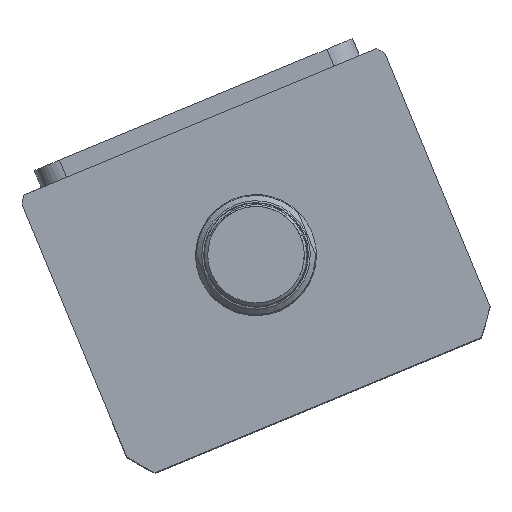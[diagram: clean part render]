
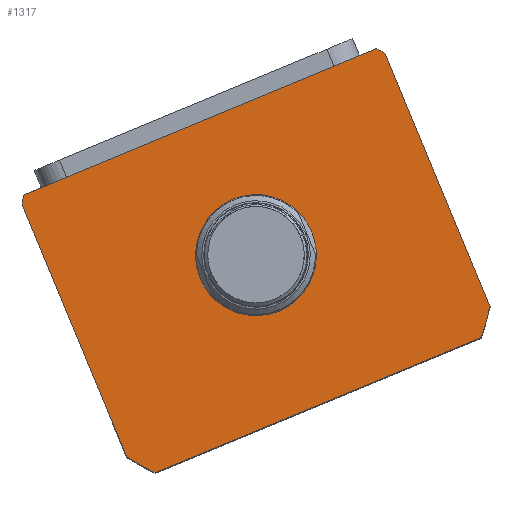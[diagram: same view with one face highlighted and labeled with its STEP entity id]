
A CAD part, top view. The second image highlights one B-rep face of the part: STEP entity #1317.
In plain terms, the highlighted planar face has unit normal (0, 0, 1) as drawn and (0, 0, -1) by its records, which use the part's own axes.
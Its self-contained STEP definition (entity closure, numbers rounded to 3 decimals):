
#159 = ORIENTED_EDGE ( 'NONE', *, *, #14225, .F. ) ;
#245 = CARTESIAN_POINT ( 'NONE',  ( 17.5, -59.497, 0. ) ) ;
#346 = ORIENTED_EDGE ( 'NONE', *, *, #11132, .F. ) ;
#671 = EDGE_CURVE ( 'NONE', #20606, #8132, #8462, .T. ) ;
#677 = VECTOR ( 'NONE', #12440, 1000. ) ;
#872 = CARTESIAN_POINT ( 'NONE',  ( -57., -106.497, 0. ) ) ;
#1020 = CARTESIAN_POINT ( 'NONE',  ( 57., -19.732, 0. ) ) ;
#1317 = ADVANCED_FACE ( 'NONE', ( #14549, #9455 ), #16532, .F. ) ;
#2123 = EDGE_CURVE ( 'NONE', #11955, #20454, #13290, .T. ) ;
#2366 = VERTEX_POINT ( 'NONE', #14005 ) ;
#2477 = EDGE_CURVE ( 'NONE', #11803, #19871, #16335, .T. ) ;
#3041 = EDGE_LOOP ( 'NONE', ( #19815, #21486 ) ) ;
#3910 = ORIENTED_EDGE ( 'NONE', *, *, #14729, .F. ) ;
#4805 = DIRECTION ( 'NONE',  ( 1., 0., 0. ) ) ;
#4864 = EDGE_CURVE ( 'NONE', #8226, #11803, #25386, .T. ) ;
#5328 = CARTESIAN_POINT ( 'NONE',  ( 0., -59.497, 0. ) ) ;
#5329 = DIRECTION ( 'NONE',  ( 0., 0., 1. ) ) ;
#5729 = DIRECTION ( 'NONE',  ( 0., 0., 1. ) ) ;
#5743 = EDGE_CURVE ( 'NONE', #18215, #8226, #14267, .T. ) ;
#6135 = ORIENTED_EDGE ( 'NONE', *, *, #2477, .F. ) ;
#6388 = LINE ( 'NONE', #10270, #677 ) ;
#6477 = CARTESIAN_POINT ( 'NONE',  ( -57., -99.262, 0. ) ) ;
#6952 = CARTESIAN_POINT ( 'NONE',  ( 57., -17.497, 0. ) ) ;
#7354 = ORIENTED_EDGE ( 'NONE', *, *, #5743, .F. ) ;
#7498 = DIRECTION ( 'NONE',  ( 1., 0., 0. ) ) ;
#8132 = VERTEX_POINT ( 'NONE', #245 ) ;
#8226 = VERTEX_POINT ( 'NONE', #17832 ) ;
#8337 = AXIS2_PLACEMENT_3D ( 'NONE', #18250, #5329, #20406 ) ;
#8462 = CIRCLE ( 'NONE', #25682, 17.5 ) ;
#8479 = ORIENTED_EDGE ( 'NONE', *, *, #4864, .F. ) ;
#9056 = AXIS2_PLACEMENT_3D ( 'NONE', #18658, #5729, #20810 ) ;
#9455 = FACE_OUTER_BOUND ( 'NONE', #27335, .T. ) ;
#9526 = CARTESIAN_POINT ( 'NONE',  ( 0., -59.497, 0. ) ) ;
#9567 = DIRECTION ( 'NONE',  ( 0., 0., 1. ) ) ;
#10013 = EDGE_CURVE ( 'NONE', #8132, #20606, #12513, .T. ) ;
#10081 = VERTEX_POINT ( 'NONE', #1020 ) ;
#10173 = AXIS2_PLACEMENT_3D ( 'NONE', #17171, #27017, #25379 ) ;
#10270 = CARTESIAN_POINT ( 'NONE',  ( -57., -17.497, 0. ) ) ;
#10397 = DIRECTION ( 'NONE',  ( 1., 0., 0. ) ) ;
#10501 = DIRECTION ( 'NONE',  ( 0., 0., 1. ) ) ;
#11132 = EDGE_CURVE ( 'NONE', #20454, #10081, #13143, .T. ) ;
#11276 = EDGE_CURVE ( 'NONE', #19871, #11955, #11794, .T. ) ;
#11794 = LINE ( 'NONE', #872, #23899 ) ;
#11803 = VERTEX_POINT ( 'NONE', #6477 ) ;
#11955 = VERTEX_POINT ( 'NONE', #21915 ) ;
#12440 = DIRECTION ( 'NONE',  ( -1., 0., 0. ) ) ;
#12513 = CIRCLE ( 'NONE', #8337, 17.5 ) ;
#13143 = LINE ( 'NONE', #6952, #24575 ) ;
#13290 = CIRCLE ( 'NONE', #24036, 69.5 ) ;
#14005 = CARTESIAN_POINT ( 'NONE',  ( 55.374, -17.497, 0. ) ) ;
#14225 = EDGE_CURVE ( 'NONE', #2366, #18215, #6388, .T. ) ;
#14267 = CIRCLE ( 'NONE', #26467, 69.5 ) ;
#14549 = FACE_BOUND ( 'NONE', #3041, .T. ) ;
#14729 = EDGE_CURVE ( 'NONE', #10081, #2366, #26967, .T. ) ;
#14805 = DIRECTION ( 'NONE',  ( 0., -1., 0. ) ) ;
#15825 = DIRECTION ( 'NONE',  ( 1., 0., 0. ) ) ;
#16136 = ORIENTED_EDGE ( 'NONE', *, *, #11276, .F. ) ;
#16335 = CIRCLE ( 'NONE', #9056, 69.5 ) ;
#16532 = PLANE ( 'NONE',  #10173 ) ;
#17171 = CARTESIAN_POINT ( 'NONE',  ( 0., 0., 0. ) ) ;
#17832 = CARTESIAN_POINT ( 'NONE',  ( -57., -19.732, 0. ) ) ;
#18215 = VERTEX_POINT ( 'NONE', #27830 ) ;
#18250 = CARTESIAN_POINT ( 'NONE',  ( 0., -59.497, 0. ) ) ;
#18658 = CARTESIAN_POINT ( 'NONE',  ( 0., -59.497, 0. ) ) ;
#19758 = CARTESIAN_POINT ( 'NONE',  ( -17.5, -59.497, 0. ) ) ;
#19765 = DIRECTION ( 'NONE',  ( 0., 0., 1. ) ) ;
#19815 = ORIENTED_EDGE ( 'NONE', *, *, #10013, .T. ) ;
#19871 = VERTEX_POINT ( 'NONE', #22642 ) ;
#20048 = CARTESIAN_POINT ( 'NONE',  ( 0., -59.497, 0. ) ) ;
#20314 = VECTOR ( 'NONE', #14805, 1000. ) ;
#20405 = DIRECTION ( 'NONE',  ( 0., 0., 1. ) ) ;
#20406 = DIRECTION ( 'NONE',  ( 1., 0., 0. ) ) ;
#20454 = VERTEX_POINT ( 'NONE', #26102 ) ;
#20606 = VERTEX_POINT ( 'NONE', #19758 ) ;
#20810 = DIRECTION ( 'NONE',  ( 1., 0., 0. ) ) ;
#21486 = ORIENTED_EDGE ( 'NONE', *, *, #671, .T. ) ;
#21915 = CARTESIAN_POINT ( 'NONE',  ( 51.198, -106.497, 0. ) ) ;
#22473 = CARTESIAN_POINT ( 'NONE',  ( 0., -59.497, 0. ) ) ;
#22642 = CARTESIAN_POINT ( 'NONE',  ( -51.198, -106.497, 0. ) ) ;
#23078 = AXIS2_PLACEMENT_3D ( 'NONE', #5328, #20405, #7498 ) ;
#23899 = VECTOR ( 'NONE', #15825, 1000. ) ;
#24036 = AXIS2_PLACEMENT_3D ( 'NONE', #9526, #10501, #10397 ) ;
#24107 = DIRECTION ( 'NONE',  ( 0., 1., 0. ) ) ;
#24575 = VECTOR ( 'NONE', #24107, 1000. ) ;
#24638 = DIRECTION ( 'NONE',  ( 1., 0., 0. ) ) ;
#25379 = DIRECTION ( 'NONE',  ( 1., 0., 0. ) ) ;
#25386 = LINE ( 'NONE', #25543, #20314 ) ;
#25543 = CARTESIAN_POINT ( 'NONE',  ( -57., -17.497, 0. ) ) ;
#25682 = AXIS2_PLACEMENT_3D ( 'NONE', #20048, #19765, #4805 ) ;
#25960 = ORIENTED_EDGE ( 'NONE', *, *, #2123, .F. ) ;
#26102 = CARTESIAN_POINT ( 'NONE',  ( 57., -99.262, 0. ) ) ;
#26467 = AXIS2_PLACEMENT_3D ( 'NONE', #22473, #9567, #24638 ) ;
#26967 = CIRCLE ( 'NONE', #23078, 69.5 ) ;
#27017 = DIRECTION ( 'NONE',  ( 0., 0., 1. ) ) ;
#27335 = EDGE_LOOP ( 'NONE', ( #3910, #346, #25960, #16136, #6135, #8479, #7354, #159 ) ) ;
#27830 = CARTESIAN_POINT ( 'NONE',  ( -55.374, -17.497, 0. ) ) ;
